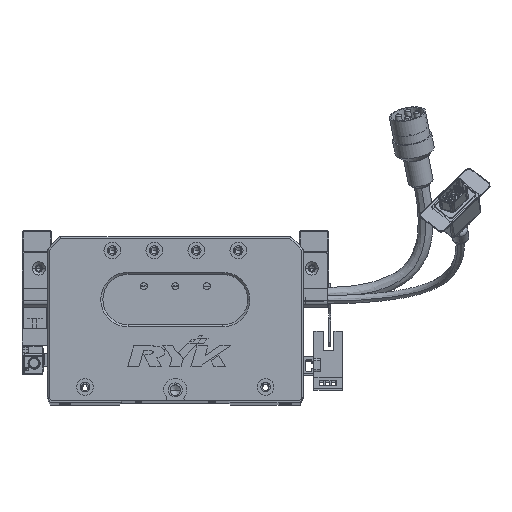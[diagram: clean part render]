
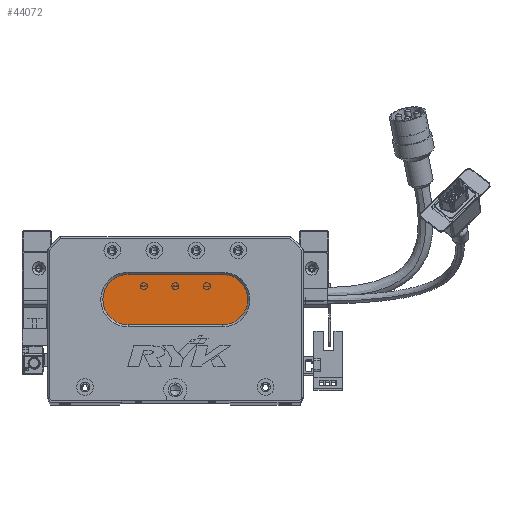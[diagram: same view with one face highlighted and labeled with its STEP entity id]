
A CAD part, top view. The second image highlights one B-rep face of the part: STEP entity #44072.
In plain terms, the highlighted planar face has unit normal (0, 0, 1) as drawn and (0, 0, -1) by its records, which use the part's own axes.
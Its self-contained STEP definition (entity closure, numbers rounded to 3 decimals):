
#3269 = CARTESIAN_POINT ( 'NONE',  ( 38.5, 60., 13. ) ) ;
#3418 = AXIS2_PLACEMENT_3D ( 'NONE', #49481, #8885, #60585 ) ;
#4537 = DIRECTION ( 'NONE',  ( -1., 0., 0. ) ) ;
#8170 = EDGE_CURVE ( 'NONE', #13544, #14261, #40673, .T. ) ;
#8885 = DIRECTION ( 'NONE',  ( 0., 0., -1. ) ) ;
#10500 = EDGE_CURVE ( 'NONE', #29933, #13544, #24277, .T. ) ;
#13544 = VERTEX_POINT ( 'NONE', #20446 ) ;
#14261 = VERTEX_POINT ( 'NONE', #33674 ) ;
#14794 = ORIENTED_EDGE ( 'NONE', *, *, #72745, .T. ) ;
#16091 = DIRECTION ( 'NONE',  ( 0., 0., -1. ) ) ;
#16336 = DIRECTION ( 'NONE',  ( -1., 0., 0. ) ) ;
#16426 = CARTESIAN_POINT ( 'NONE',  ( 83.5, 48., 13. ) ) ;
#19413 = EDGE_CURVE ( 'NONE', #27058, #19918, #72236, .T. ) ;
#19918 = VERTEX_POINT ( 'NONE', #33963 ) ;
#20446 = CARTESIAN_POINT ( 'NONE',  ( 83.5, 60., 13. ) ) ;
#21121 = VECTOR ( 'NONE', #4537, 1000. ) ;
#24277 = LINE ( 'NONE', #41977, #67335 ) ;
#26842 = ORIENTED_EDGE ( 'NONE', *, *, #57619, .T. ) ;
#27058 = VERTEX_POINT ( 'NONE', #30637 ) ;
#27229 = CARTESIAN_POINT ( 'NONE',  ( 38.5, 48., 13. ) ) ;
#27495 = DIRECTION ( 'NONE',  ( -1., 0., 0. ) ) ;
#29933 = VERTEX_POINT ( 'NONE', #3269 ) ;
#30637 = CARTESIAN_POINT ( 'NONE',  ( 38.5, 36., 13. ) ) ;
#31959 = AXIS2_PLACEMENT_3D ( 'NONE', #16426, #33711, #62334 ) ;
#33674 = CARTESIAN_POINT ( 'NONE',  ( 83.5, 36., 13. ) ) ;
#33711 = DIRECTION ( 'NONE',  ( 0., 0., -1. ) ) ;
#33963 = CARTESIAN_POINT ( 'NONE',  ( 26.5, 48., 13. ) ) ;
#36857 = EDGE_LOOP ( 'NONE', ( #57453, #26842, #72107, #14794, #54746 ) ) ;
#39136 = PLANE ( 'NONE',  #42767 ) ;
#40673 = CIRCLE ( 'NONE', #31959, 12. ) ;
#41977 = CARTESIAN_POINT ( 'NONE',  ( 83.5, 60., 13. ) ) ;
#42767 = AXIS2_PLACEMENT_3D ( 'NONE', #44405, #16091, #16336 ) ;
#43549 = CIRCLE ( 'NONE', #3418, 12. ) ;
#43842 = FACE_OUTER_BOUND ( 'NONE', #36857, .T. ) ;
#44072 = ADVANCED_FACE ( 'NONE', ( #43842 ), #39136, .T. ) ;
#44405 = CARTESIAN_POINT ( 'NONE',  ( 83.5, 48., 13. ) ) ;
#44548 = DIRECTION ( 'NONE',  ( 0., 0., -1. ) ) ;
#44641 = CARTESIAN_POINT ( 'NONE',  ( 83.5, 36., 13. ) ) ;
#49481 = CARTESIAN_POINT ( 'NONE',  ( 38.5, 48., 13. ) ) ;
#54746 = ORIENTED_EDGE ( 'NONE', *, *, #10500, .T. ) ;
#57453 = ORIENTED_EDGE ( 'NONE', *, *, #8170, .T. ) ;
#57619 = EDGE_CURVE ( 'NONE', #14261, #27058, #69619, .T. ) ;
#59306 = DIRECTION ( 'NONE',  ( 1., 0., 0. ) ) ;
#59448 = AXIS2_PLACEMENT_3D ( 'NONE', #27229, #44548, #27495 ) ;
#60585 = DIRECTION ( 'NONE',  ( -1., 0., 0. ) ) ;
#62334 = DIRECTION ( 'NONE',  ( -1., 0., 0. ) ) ;
#67335 = VECTOR ( 'NONE', #59306, 1000. ) ;
#69619 = LINE ( 'NONE', #44641, #21121 ) ;
#72107 = ORIENTED_EDGE ( 'NONE', *, *, #19413, .T. ) ;
#72236 = CIRCLE ( 'NONE', #59448, 12. ) ;
#72745 = EDGE_CURVE ( 'NONE', #19918, #29933, #43549, .T. ) ;
